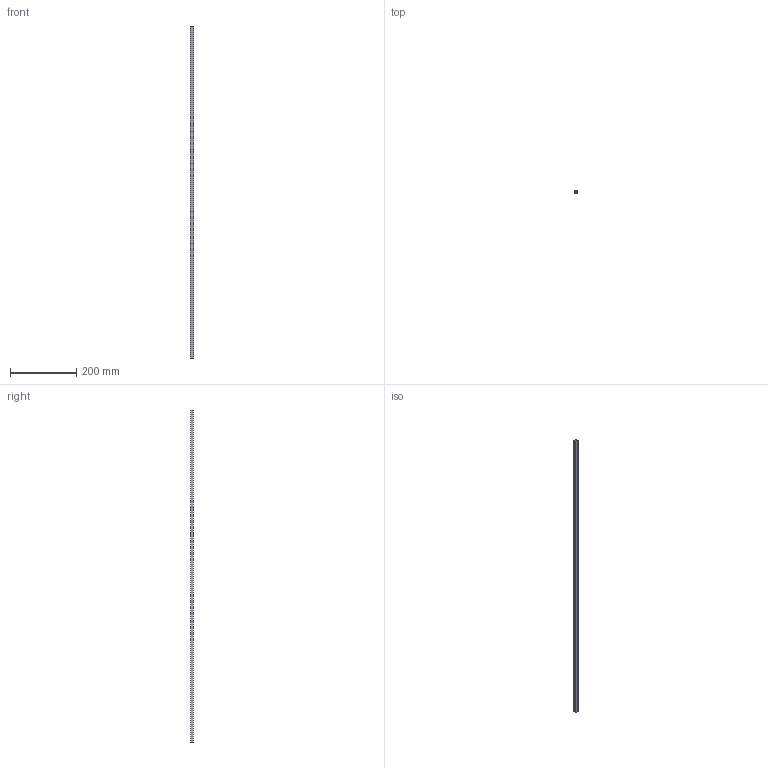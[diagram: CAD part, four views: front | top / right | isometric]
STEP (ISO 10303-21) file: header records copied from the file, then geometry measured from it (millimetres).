
FILE_DESCRIPTION (( 'STEP AP203' ), '1' );
FILE_NAME ('CAD_Mini Cable Duct.STEP', '2020-06-30T05:13:57', ( '' ), ( '' ), 'SwSTEP 2.0', 'SolidWorks 2019', '' );
FILE_SCHEMA (( 'CONFIG_CONTROL_DESIGN' ));
Length unit declared in the file: millimetre
Products named in the file (1): CAD_Mini Cable Duct
Bounding box: 12 x 7.2 x 1000 mm (x, y, z)
Volume: 46400 mm3; surface area: 64492.8 mm2
Topology: 1 solids, 1 shells, 10 faces, 24 edges, 16 vertices
Faces by surface type: plane 10
Entity records: 369 total; most frequent: CARTESIAN_POINT 51, ORIENTED_EDGE 48, DIRECTION 46, VECTOR 24, EDGE_CURVE 24, LINE 24, VERTEX_POINT 16, EDGE_LOOP 12
